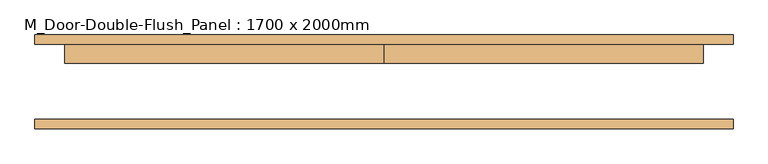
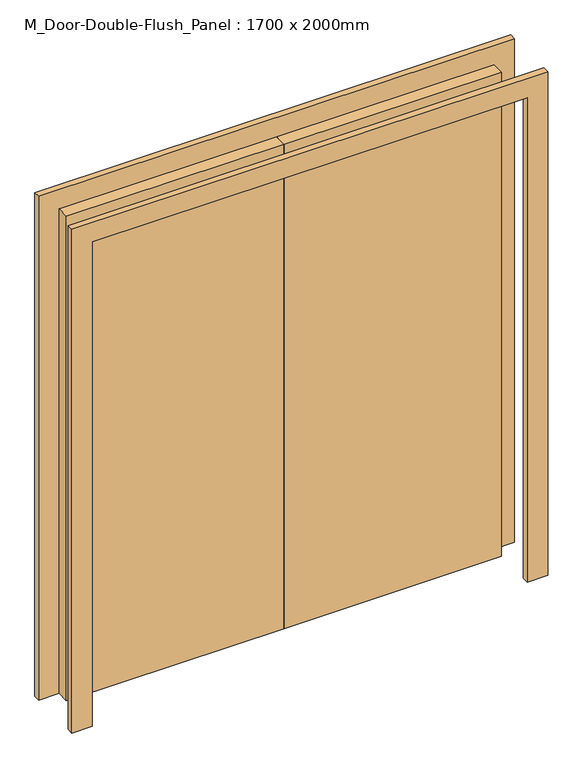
"""IFC4 building model written with IfcOpenShell, lengths in millimetres: door geometry, M_Door-Double-Flush_Panel : 1700 x 2000mm."""

from ifc_helpers import new_model, si_unit, frame, origin, origin_with_axes, place, context, project, spatial, polyline, outline, extrude, source, transform, mapped, element, save


def m_door_double_flush_panel_1700_x_2000mm_deeb3825(model_context):
    return source(origin(), model_context, "Body", "SweptSolid", [
        extrude(outline(polyline([(2000.0, -850.0), (2000.0, 850.0), (0.0, 850.0), (0.0, 930.0), (2080.0, 930.0), (2080.0, -930.0), (0.0, -930.0), (0.0, -850.0), (2000.0, -850.0)])), frame((0.0, -125.0, 0.0), z_axis=(0.0, 1.0, 0.0), x_axis=(0.0, 0.0, 1.0)), (0.0, 0.0, 1.0), 25.0),
        extrude(outline(polyline([(2000.0, -850.0), (2000.0, 850.0), (0.0, 850.0), (0.0, 930.0), (2080.0, 930.0), (2080.0, -930.0), (0.0, -930.0), (0.0, -850.0), (2000.0, -850.0)])), frame((0.0, 100.0, 0.0), z_axis=(0.0, 1.0, 0.0), x_axis=(0.0, 0.0, 1.0)), (0.0, 0.0, 1.0), 25.0),
        extrude(outline(polyline([(0.0, 100.0), (850.0, 100.0), (850.0, 50.0), (0.0, 50.0), (0.0, 100.0)])), origin_with_axes(), (0.0, 0.0, 1.0), 2000.0),
        extrude(outline(polyline([(-850.0, 100.0), (0.0, 100.0), (0.0, 50.0), (-850.0, 50.0), (-850.0, 100.0)])), origin_with_axes(), (0.0, 0.0, 1.0), 2000.0),
    ])


if __name__ == "__main__":
    model = new_model("IFC4")
    model_context = context("Model", 3, world=origin())
    ifc_project = project(units=[si_unit("LENGTHUNIT", "METRE", prefix="MILLI")], contexts=[model_context])
    site = spatial("IfcSite", under=ifc_project)
    building = spatial("IfcBuilding", under=site)
    placement = place(None, origin())
    m_door_double_flush_panel_1700_x_2000mm_shape = m_door_double_flush_panel_1700_x_2000mm_deeb3825(model_context)
    element("IfcDoor", 1, ObjectType="M_Door-Double-Flush_Panel : 1700 x 2000mm", at=placement, inside=building, context=model_context, shape_type="MappedRepresentation", body=[
        mapped(m_door_double_flush_panel_1700_x_2000mm_shape, transform((0.0, 0.0, 0.0), x_axis=(1.0, 0.0, 0.0), y_axis=(0.0, 1.0, 0.0), z_axis=(0.0, 0.0, 1.0))),
    ])
    save(model, "model.ifc")
